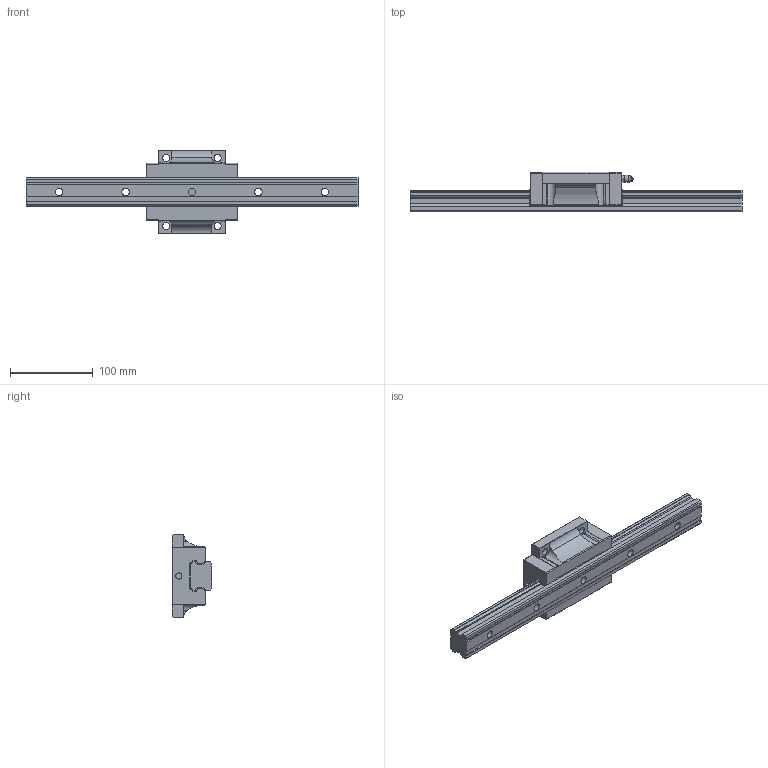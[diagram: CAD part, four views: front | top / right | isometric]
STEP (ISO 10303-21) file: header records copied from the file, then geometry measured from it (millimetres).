
FILE_DESCRIPTION((''),'2;1');
FILE_NAME('D:\製品 (図面)\カタログ用3D\変換ファイル\OZAK_3D-CAD(STEP形式)\Part2.-Linear Guides_ﾘﾆｱｶﾞｲﾄﾞ\07_Eco Guides_ｴｺｶﾞｲﾄﾞ\EGH-F\EGH35F.stp','2010-12-22T11:15:16',('Tsuchiya'),(''),'Autodesk Inventor 10','Autodesk Inventor 10','');
FILE_SCHEMA(('AUTOMOTIVE_DESIGN { 1 0 10303 214 1 1 1 1 }'));
Length unit declared in the file: millimetre
Products named in the file (3): EGH35F; EGH35F1; EGH35F2
Assembly tree (2 placements, depth 2):
  EGH35F
    EGH35F1
    EGH35F2
Bounding box: 400 x 48.05 x 100 mm (x, y, z)
Volume: 586984.6 mm3; surface area: 95201.6 mm2
Topology: 2 solids, 3 shells, 273 faces, 754 edges, 497 vertices
Faces by surface type: plane 159, cylinder 90, cone 16, bspline 6, sphere 1, torus 1
Full cylindrical faces by diameter (mm): 6 x1, 7.5 x2, 7.75 x1, 8 x1, 8.6 x4, 9 x5, 14 x5
Entity records: 8987 total; most frequent: CARTESIAN_POINT 1931, ORIENTED_EDGE 1448, DIRECTION 1438, EDGE_CURVE 724, VECTOR 496, LINE 496, VERTEX_POINT 491, AXIS2_PLACEMENT_3D 471
